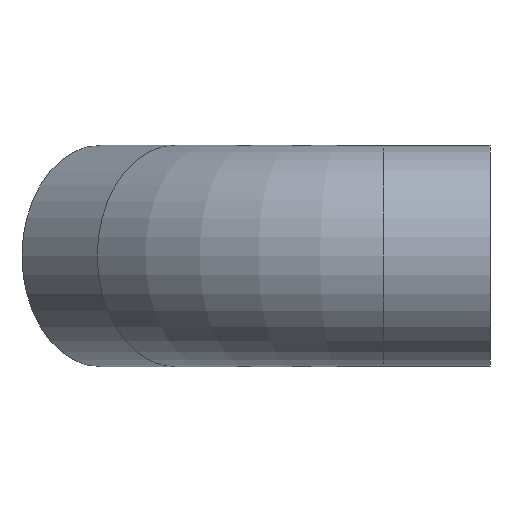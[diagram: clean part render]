
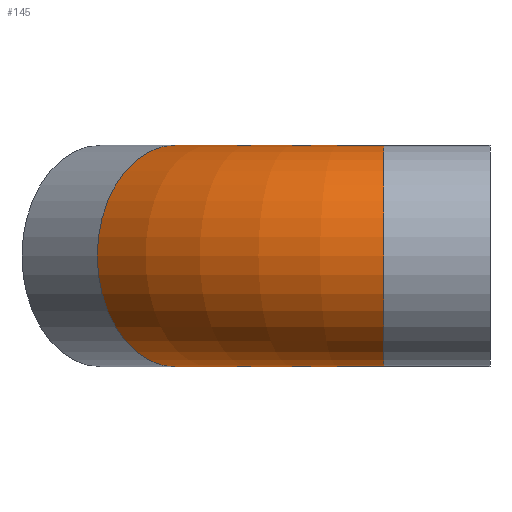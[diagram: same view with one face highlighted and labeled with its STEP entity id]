
A CAD part, left-side view. The second image highlights one B-rep face of the part: STEP entity #145.
In plain terms, the highlighted toroidal (fillet/blend) face has major radius 152 mm and minor radius 57.15 mm.
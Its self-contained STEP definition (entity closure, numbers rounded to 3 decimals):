
#20=TOROIDAL_SURFACE('',#184,152.,57.15);
#25=FACE_OUTER_BOUND('',#33,.T.);
#33=EDGE_LOOP('',(#119,#120,#121,#122,#123,#124));
#56=CIRCLE('',#182,57.15);
#57=CIRCLE('',#183,57.15);
#58=CIRCLE('',#185,94.85);
#59=CIRCLE('',#186,57.15);
#60=CIRCLE('',#187,57.15);
#71=VERTEX_POINT('',#271);
#72=VERTEX_POINT('',#273);
#73=VERTEX_POINT('',#277);
#74=VERTEX_POINT('',#279);
#89=EDGE_CURVE('',#71,#72,#56,.T.);
#90=EDGE_CURVE('',#72,#71,#57,.T.);
#91=EDGE_CURVE('',#71,#73,#58,.T.);
#92=EDGE_CURVE('',#73,#74,#59,.T.);
#93=EDGE_CURVE('',#74,#73,#60,.T.);
#119=ORIENTED_EDGE('',*,*,#90,.F.);
#120=ORIENTED_EDGE('',*,*,#89,.F.);
#121=ORIENTED_EDGE('',*,*,#91,.T.);
#122=ORIENTED_EDGE('',*,*,#92,.T.);
#123=ORIENTED_EDGE('',*,*,#93,.T.);
#124=ORIENTED_EDGE('',*,*,#91,.F.);
#145=ADVANCED_FACE('',(#25),#20,.T.);
#182=AXIS2_PLACEMENT_3D('',#274,#224,#225);
#183=AXIS2_PLACEMENT_3D('',#275,#226,#227);
#184=AXIS2_PLACEMENT_3D('',#276,#228,#229);
#185=AXIS2_PLACEMENT_3D('',#278,#230,#231);
#186=AXIS2_PLACEMENT_3D('',#280,#232,#233);
#187=AXIS2_PLACEMENT_3D('',#281,#234,#235);
#224=DIRECTION('center_axis',(0.707,0.707,0.));
#225=DIRECTION('ref_axis',(-0.707,0.707,0.));
#226=DIRECTION('center_axis',(0.707,0.707,0.));
#227=DIRECTION('ref_axis',(-0.707,0.707,0.));
#228=DIRECTION('center_axis',(0.,0.,-1.));
#229=DIRECTION('ref_axis',(-1.,0.,0.));
#230=DIRECTION('center_axis',(0.,0.,1.));
#231=DIRECTION('ref_axis',(-1.,0.,0.));
#232=DIRECTION('center_axis',(0.,1.,0.));
#233=DIRECTION('ref_axis',(-1.,0.,0.));
#234=DIRECTION('center_axis',(0.,1.,0.));
#235=DIRECTION('ref_axis',(-1.,0.,0.));
#271=CARTESIAN_POINT('',(84.931,122.069,0.));
#273=CARTESIAN_POINT('',(4.109,202.891,0.));
#274=CARTESIAN_POINT('Origin',(44.52,162.48,0.));
#275=CARTESIAN_POINT('Origin',(44.52,162.48,0.));
#276=CARTESIAN_POINT('Origin',(152.,55.,0.));
#277=CARTESIAN_POINT('',(57.15,55.,0.));
#278=CARTESIAN_POINT('Origin',(152.,55.,0.));
#279=CARTESIAN_POINT('',(-57.15,55.,0.));
#280=CARTESIAN_POINT('Origin',(0.,55.,0.));
#281=CARTESIAN_POINT('Origin',(0.,55.,0.));
